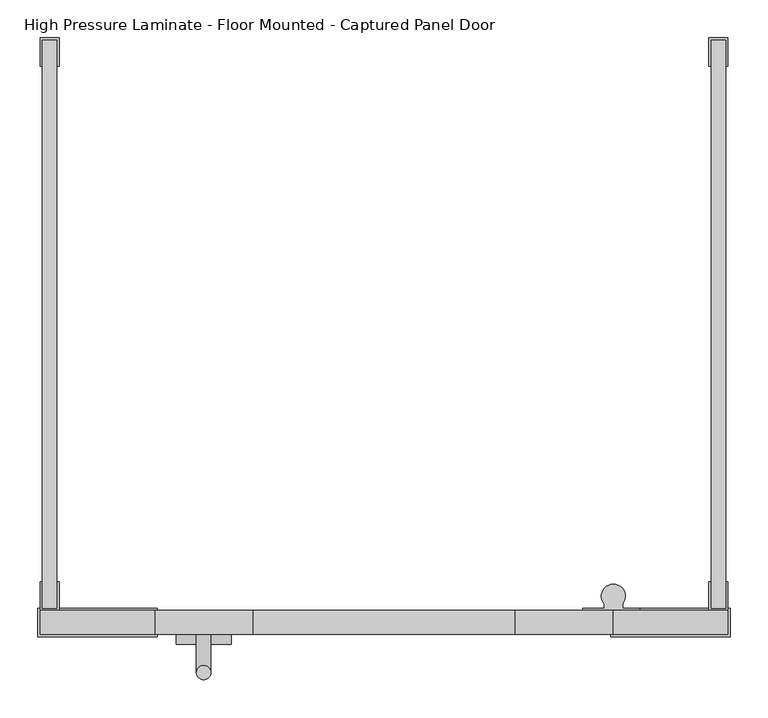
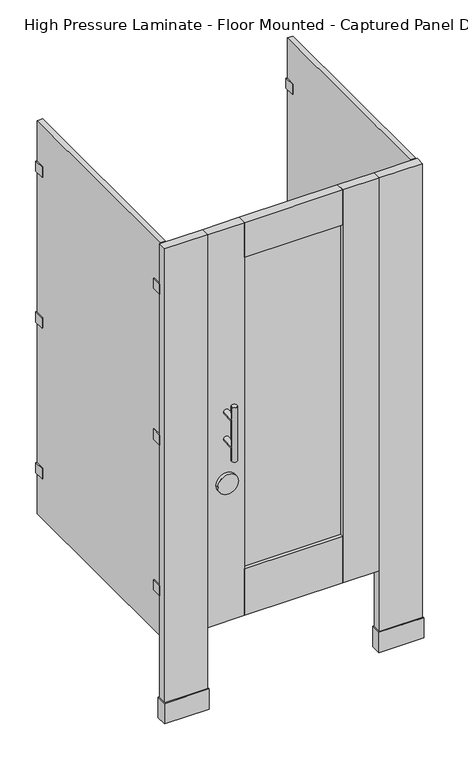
"""IFC4 building model written with IfcOpenShell, lengths in millimetres: proxy geometry, Toilet-Partition_Ironwood-Mfg_High-Pressure-Laminate : High Pressure Laminate - Floor Mounted - Captured Panel Door."""

from ifc_helpers import new_model, si_unit, point, frame, frame_2d, origin, origin_with_axes, place, context, project, spatial, polyline, circle_curve, ellipse_curve, trimmed, segment, composite_curve, outline, extrude, source, transform, mapped, element, save
from ifc_brep_helpers import plane_surface, cylinder_surface, advanced_brep


def high_pressure_laminate_floor_mounted_captured_panel_door_a674d35c(model_context):
    return source(origin(), model_context, "Body", "SolidModel", [
        extrude(outline(polyline([(701.675, -758.825), (701.675, -796.925), (542.925, -796.925), (542.925, -758.825), (701.675, -758.825)])), origin_with_axes(), (0.0, 0.0, 1.0), 76.2),
        extrude(outline(polyline([(698.5, -762.0), (698.5, -793.75), (546.1, -793.75), (546.1, -762.0), (698.5, -762.0)])), origin_with_axes(), (0.0, 0.0, 1.0), 1778.0),
        extrude(outline(polyline([(-219.075, -758.825), (-60.325, -758.825), (-60.325, -796.925), (-219.075, -796.925), (-219.075, -758.825)])), origin_with_axes(), (0.0, 0.0, 1.0), 76.2),
        extrude(outline(polyline([(-215.9, -762.0), (-63.5, -762.0), (-63.5, -793.75), (-215.9, -793.75), (-215.9, -762.0)])), origin_with_axes(), (0.0, 0.0, 1.0), 1778.0),
        extrude(outline(polyline([(415.925, -781.1988281), (66.675, -781.1988281), (66.675, -774.5511719), (415.925, -774.5511719), (415.925, -781.1988281)])), frame((0.0, 0.0, 479.425), z_axis=(0.0, 0.0, 1.0), x_axis=(1.0, 0.0, 0.0)), (0.0, 0.0, 1.0), 1168.4),
        extrude(outline(polyline([(66.675, -762.0), (66.675, -793.75), (-63.5, -793.75), (-63.5, -762.0), (66.675, -762.0)])), frame((0.0, 0.0, 304.8), z_axis=(0.0, 0.0, 1.0), x_axis=(1.0, 0.0, 0.0)), (0.0, 0.0, 1.0), 1473.2),
        extrude(outline(polyline([(415.925, -762.0), (546.1, -762.0), (546.1, -793.75), (415.925, -793.75), (415.925, -762.0)])), frame((0.0, 0.0, 304.8), z_axis=(0.0, 0.0, 1.0), x_axis=(1.0, 0.0, 0.0)), (0.0, 0.0, 1.0), 1473.2),
        extrude(outline(polyline([(415.925, -762.0), (415.925, -793.75), (66.675, -793.75), (66.675, -762.0), (415.925, -762.0)])), frame((0.0, 0.0, 1647.825), z_axis=(0.0, 0.0, 1.0), x_axis=(1.0, 0.0, 0.0)), (0.0, 0.0, 1.0), 130.175),
        extrude(outline(polyline([(415.925, -762.0), (415.925, -793.75), (66.675, -793.75), (66.675, -762.0), (415.925, -762.0)])), frame((0.0, 0.0, 304.8), z_axis=(0.0, 0.0, 1.0), x_axis=(1.0, 0.0, 0.0)), (0.0, 0.0, 1.0), 174.625),
        extrude(outline(composite_curve([segment(trimmed(circle_curve(frame_2d((827.0875, 1.5875)), 36.5125), [point((827.0875, -34.925))], [point((827.0875, 38.1))], False, "CARTESIAN"), True, "CONTINUOUS"), segment(trimmed(circle_curve(frame_2d((827.0875, 1.5875)), 36.5125), [point((827.0875, 38.1))], [point((827.0875, -34.925))], False, "CARTESIAN"), True, "CONTINUOUS")], self_intersect=False)), frame((0.0, -806.45, 0.0), z_axis=(0.0, 1.0, 0.0), x_axis=(0.0, 0.0, 1.0)), (0.0, 0.0, 1.0), 12.7),
        advanced_brep(
        [(-7.9375, -793.75, 1092.2), (11.1125, -793.75, 1092.2), (-7.9375, -793.75, 990.6), (11.1125, -793.75, 990.6), (11.1125, -844.55, 1092.2), (-7.9375, -844.55, 1092.2), (11.1125, -844.55, 990.6), (-7.9375, -844.55, 990.6), (-7.9375, -844.55, 1143.0), (11.1125, -844.55, 1143.0), (-7.9375, -844.55, 939.8), (11.1125, -844.55, 939.8)],
        [
            (0, 1, circle_curve(frame((1.5875, -793.75, 1092.2), z_axis=(0.0, 1.0, 0.0), x_axis=(1.0, 0.0, 0.0)), 9.525)),
            (1, 0, circle_curve(frame((1.5875, -793.75, 1092.2), z_axis=(0.0, 1.0, 0.0), x_axis=(1.0, 0.0, 0.0)), 9.525)),
            (2, 3, circle_curve(frame((1.5875, -793.75, 990.6), z_axis=(0.0, 1.0, 0.0), x_axis=(1.0, 0.0, 0.0)), 9.525)),
            (3, 2, circle_curve(frame((1.5875, -793.75, 990.6), z_axis=(0.0, 1.0, 0.0), x_axis=(1.0, 0.0, 0.0)), 9.525)),
            (1, 4),
            (4, 5, ellipse_curve(frame((1.5875, -844.55, 1092.2), z_axis=(0.0, 0.7071067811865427, 0.7071067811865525), x_axis=(0.0, -0.7071067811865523, 0.7071067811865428)), 13.4703842, 9.525)),
            (5, 0),
            (5, 4, ellipse_curve(frame((1.5875, -844.55, 1092.2), z_axis=(0.0, 0.7071067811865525, -0.7071067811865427), x_axis=(0.0, -0.7071067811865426, -0.7071067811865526)), 13.4703842, 9.525)),
            (3, 6),
            (6, 7, ellipse_curve(frame((1.5875, -844.55, 990.6), z_axis=(0.0, 0.7071067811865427, 0.7071067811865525), x_axis=(0.0, -0.7071067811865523, 0.7071067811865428)), 13.4703842, 9.525)),
            (7, 2),
            (7, 6, ellipse_curve(frame((1.5875, -844.55, 990.6), z_axis=(0.0, 0.7071067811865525, -0.7071067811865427), x_axis=(0.0, -0.7071067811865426, -0.7071067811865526)), 13.4703842, 9.525)),
            (8, 9, circle_curve(frame((1.5875, -844.55, 1143.0), z_axis=(0.0, 0.0, 1.0), x_axis=(1.0, 0.0, 0.0)), 9.525)),
            (9, 8, circle_curve(frame((1.5875, -844.55, 1143.0), z_axis=(0.0, 0.0, 1.0), x_axis=(1.0, 0.0, 0.0)), 9.525)),
            (10, 11, circle_curve(frame((1.5875, -844.55, 939.8), z_axis=(0.0, 0.0, -1.0), x_axis=(1.0, 0.0, 0.0)), 9.525)),
            (11, 10, circle_curve(frame((1.5875, -844.55, 939.8), z_axis=(0.0, 0.0, -1.0), x_axis=(1.0, 0.0, 0.0)), 9.525)),
            (8, 5),
            (5, 7),
            (7, 10),
            (11, 6),
            (6, 4),
            (4, 9),
        ],
        [
            plane_surface(frame((11.1125, -793.75, 1092.2), z_axis=(0.0, 1.0, 0.0), x_axis=(0.0, 0.0, -1.0))),
            cylinder_surface(frame((1.5875, -793.75, 1092.2), z_axis=(0.0, -1.0, 0.0), x_axis=(1.0, 0.0, 0.0)), 9.525),
            cylinder_surface(frame((1.5875, -793.75, 990.6), z_axis=(0.0, -1.0, 0.0), x_axis=(1.0, 0.0, 0.0)), 9.525),
            plane_surface(frame((11.1125, -844.55, 1143.0), z_axis=(0.0, 0.0, 1.0), x_axis=(0.0, 1.0, 0.0))),
            plane_surface(frame((11.1125, -844.55, 939.8), z_axis=(0.0, 0.0, -1.0), x_axis=(0.0, -1.0, 0.0))),
            cylinder_surface(frame((1.5875, -844.55, 939.8), z_axis=(0.0, 0.0, 1.0), x_axis=(1.0, 0.0, 0.0)), 9.525),
        ],
        [
            (0, [[1, 2]]),
            (0, [[3, 4]]),
            (1, [[-2, 5, 6, 7]]),
            (1, [[-1, -7, 8, -5]]),
            (2, [[-4, 9, 10, 11]]),
            (2, [[-3, -11, 12, -9]]),
            (3, [[13, 14]]),
            (4, [[15, 16]]),
            (5, [[-13, 17, 18, 19, -16, 20, 21, 22]]),
            (5, [[-14, -22, -8, -17]]),
            (5, [[-15, -19, -10, -20]]),
            (5, [[-18, -6, -21, -12]]),
        ],
    ),
        extrude(outline(composite_curve([segment(polyline([(581.3737081, -762.0), (505.1737081, -762.0), (505.1737081, -758.825), (533.7487081, -758.825), (533.7487081, -752.9581331)]), True, "CONTINUOUS"), segment(trimmed(circle_curve(frame_2d((546.1, -742.8902139)), 15.9347861), [point((533.7487081, -752.9581331))], [point((558.4512919, -752.9581331))], False, "CARTESIAN"), True, "CONTINUOUS"), segment(polyline([(558.4512919, -752.9581331), (558.4512919, -758.825), (581.3737081, -758.825), (581.3737081, -762.0)]), True, "CONTINUOUS")], self_intersect=False)), frame((0.0, 0.0, 1574.8), z_axis=(0.0, 0.0, 1.0), x_axis=(1.0, 0.0, 0.0)), (0.0, 0.0, 1.0), 63.5),
        extrude(outline(composite_curve([segment(polyline([(581.3737081, -762.0), (505.1737081, -762.0), (505.1737081, -758.825), (533.7487081, -758.825), (533.7487081, -752.9581331)]), True, "CONTINUOUS"), segment(trimmed(circle_curve(frame_2d((546.1, -742.8902139)), 15.9347861), [point((533.7487081, -752.9581331))], [point((558.4512919, -752.9581331))], False, "CARTESIAN"), True, "CONTINUOUS"), segment(polyline([(558.4512919, -752.9581331), (558.4512919, -758.825), (581.3737081, -758.825), (581.3737081, -762.0)]), True, "CONTINUOUS")], self_intersect=False)), frame((0.0, 0.0, 1009.6500001), z_axis=(0.0, 0.0, 1.0), x_axis=(1.0, 0.0, 0.0)), (0.0, 0.0, 1.0), 63.5),
        extrude(outline(composite_curve([segment(polyline([(581.3737081, -762.0), (505.1737081, -762.0), (505.1737081, -758.825), (533.7487081, -758.825), (533.7487081, -752.9581331)]), True, "CONTINUOUS"), segment(trimmed(circle_curve(frame_2d((546.1, -742.8902139)), 15.9347861), [point((533.7487081, -752.9581331))], [point((558.4512919, -752.9581331))], False, "CARTESIAN"), True, "CONTINUOUS"), segment(polyline([(558.4512919, -752.9581331), (558.4512919, -758.825), (581.3737081, -758.825), (581.3737081, -762.0)]), True, "CONTINUOUS")], self_intersect=False)), frame((0.0, 0.0, 444.5), z_axis=(0.0, 0.0, 1.0), x_axis=(1.0, 0.0, 0.0)), (0.0, 0.0, 1.0), 63.5),
        extrude(outline(polyline([(676.148, -723.9), (676.148, -758.825), (695.198, -758.825), (695.198, -723.9), (698.373, -723.9), (698.373, -762.0), (672.973, -762.0), (672.973, -723.9), (676.148, -723.9)])), frame((0.0, 0.0, 1587.8188137), z_axis=(0.0, 0.0, 1.0), x_axis=(1.0, 0.0, 0.0)), (0.0, 0.0, 1.0), 38.1),
        extrude(outline(polyline([(676.148, -38.1), (672.973, -38.1), (672.973, 0.0), (698.373, 0.0), (698.373, -38.1), (695.198, -38.1), (695.198, -3.175), (676.148, -3.175), (676.148, -38.1)])), frame((0.0, 0.0, 1587.8188137), z_axis=(0.0, 0.0, 1.0), x_axis=(1.0, 0.0, 0.0)), (0.0, 0.0, 1.0), 38.1),
        extrude(outline(polyline([(676.148, -723.9), (676.148, -758.825), (695.198, -758.825), (695.198, -723.9), (698.373, -723.9), (698.373, -762.0), (672.973, -762.0), (672.973, -723.9), (676.148, -723.9)])), frame((0.0, 0.0, 1022.35), z_axis=(0.0, 0.0, 1.0), x_axis=(1.0, 0.0, 0.0)), (0.0, 0.0, 1.0), 38.1),
        extrude(outline(polyline([(676.148, -38.1), (672.973, -38.1), (672.973, 0.0), (698.373, 0.0), (698.373, -38.1), (695.198, -38.1), (695.198, -3.175), (676.148, -3.175), (676.148, -38.1)])), frame((0.0, 0.0, 1022.35), z_axis=(0.0, 0.0, 1.0), x_axis=(1.0, 0.0, 0.0)), (0.0, 0.0, 1.0), 38.1),
        extrude(outline(polyline([(676.148, -723.9), (676.148, -758.825), (695.198, -758.825), (695.198, -723.9), (698.373, -723.9), (698.373, -762.0), (672.973, -762.0), (672.973, -723.9), (676.148, -723.9)])), frame((0.0, 0.0, 457.2), z_axis=(0.0, 0.0, 1.0), x_axis=(1.0, 0.0, 0.0)), (0.0, 0.0, 1.0), 38.1),
        extrude(outline(polyline([(676.148, -38.1), (672.973, -38.1), (672.973, 0.0), (698.373, 0.0), (698.373, -38.1), (695.198, -38.1), (695.198, -3.175), (676.148, -3.175), (676.148, -38.1)])), frame((0.0, 0.0, 457.2), z_axis=(0.0, 0.0, 1.0), x_axis=(1.0, 0.0, 0.0)), (0.0, 0.0, 1.0), 38.1),
        extrude(outline(polyline([(-212.598, -723.9), (-212.598, -758.825), (-193.548, -758.825), (-193.548, -723.9), (-190.373, -723.9), (-190.373, -762.0), (-215.773, -762.0), (-215.773, -723.9), (-212.598, -723.9)])), frame((0.0, 0.0, 1587.8188137), z_axis=(0.0, 0.0, 1.0), x_axis=(1.0, 0.0, 0.0)), (0.0, 0.0, 1.0), 38.1),
        extrude(outline(polyline([(-212.598, -38.1), (-215.773, -38.1), (-215.773, 0.0), (-190.373, 0.0), (-190.373, -38.1), (-193.548, -38.1), (-193.548, -3.175), (-212.598, -3.175), (-212.598, -38.1)])), frame((0.0, 0.0, 1587.8188137), z_axis=(0.0, 0.0, 1.0), x_axis=(1.0, 0.0, 0.0)), (0.0, 0.0, 1.0), 38.1),
        extrude(outline(polyline([(-212.598, -723.9), (-212.598, -758.825), (-193.548, -758.825), (-193.548, -723.9), (-190.373, -723.9), (-190.373, -762.0), (-215.773, -762.0), (-215.773, -723.9), (-212.598, -723.9)])), frame((0.0, 0.0, 1022.35), z_axis=(0.0, 0.0, 1.0), x_axis=(1.0, 0.0, 0.0)), (0.0, 0.0, 1.0), 38.1),
        extrude(outline(polyline([(-212.598, -38.1), (-215.773, -38.1), (-215.773, 0.0), (-190.373, 0.0), (-190.373, -38.1), (-193.548, -38.1), (-193.548, -3.175), (-212.598, -3.175), (-212.598, -38.1)])), frame((0.0, 0.0, 1022.35), z_axis=(0.0, 0.0, 1.0), x_axis=(1.0, 0.0, 0.0)), (0.0, 0.0, 1.0), 38.1),
        extrude(outline(polyline([(-212.598, -723.9), (-212.598, -758.825), (-193.548, -758.825), (-193.548, -723.9), (-190.373, -723.9), (-190.373, -762.0), (-215.773, -762.0), (-215.773, -723.9), (-212.598, -723.9)])), frame((0.0, 0.0, 457.2), z_axis=(0.0, 0.0, 1.0), x_axis=(1.0, 0.0, 0.0)), (0.0, 0.0, 1.0), 38.1),
        extrude(outline(polyline([(-212.598, -38.1), (-215.773, -38.1), (-215.773, 0.0), (-190.373, 0.0), (-190.373, -38.1), (-193.548, -38.1), (-193.548, -3.175), (-212.598, -3.175), (-212.598, -38.1)])), frame((0.0, 0.0, 457.2), z_axis=(0.0, 0.0, 1.0), x_axis=(1.0, 0.0, 0.0)), (0.0, 0.0, 1.0), 38.1),
        extrude(outline(polyline([(-193.548, -3.175), (-193.548, -758.825), (-212.598, -758.825), (-212.598, -3.175), (-193.548, -3.175)])), frame((0.0, 0.0, 304.8), z_axis=(0.0, 0.0, 1.0), x_axis=(1.0, 0.0, 0.0)), (0.0, 0.0, 1.0), 1473.2),
        extrude(outline(polyline([(695.198, -3.175), (695.198, -758.825), (676.148, -758.825), (676.148, -3.175), (695.198, -3.175)])), frame((0.0, 0.0, 304.8), z_axis=(0.0, 0.0, 1.0), x_axis=(1.0, 0.0, 0.0)), (0.0, 0.0, 1.0), 1473.2),
    ])


if __name__ == "__main__":
    model = new_model("IFC4")
    model_context = context("Model", 3, world=origin())
    ifc_project = project(units=[si_unit("LENGTHUNIT", "METRE", prefix="MILLI")], contexts=[model_context])
    site = spatial("IfcSite", under=ifc_project)
    building = spatial("IfcBuilding", under=site)
    placement = place(None, origin())
    high_pressure_laminate_floor_mounted_captured_panel_door_shape = high_pressure_laminate_floor_mounted_captured_panel_door_a674d35c(model_context)
    element("IfcBuildingElementProxy", 1, Name="Toilet-Partition_Ironwood-Mfg_High-Pressure-Laminate : High Pressure Laminate - Floor Mounted - Captured Panel Door", ObjectType="Toilet-Partition_Ironwood-Mfg_High-Pressure-Laminate : High Pressure Laminate - Floor Mounted - Captured Panel Door", at=placement, inside=building, context=model_context, shape_type="MappedRepresentation", body=[
        mapped(high_pressure_laminate_floor_mounted_captured_panel_door_shape, transform((0.0, 0.0, 0.0), x_axis=(1.0, 0.0, 0.0), y_axis=(0.0, 1.0, 0.0), z_axis=(0.0, 0.0, 1.0))),
    ])
    save(model, "model.ifc")
